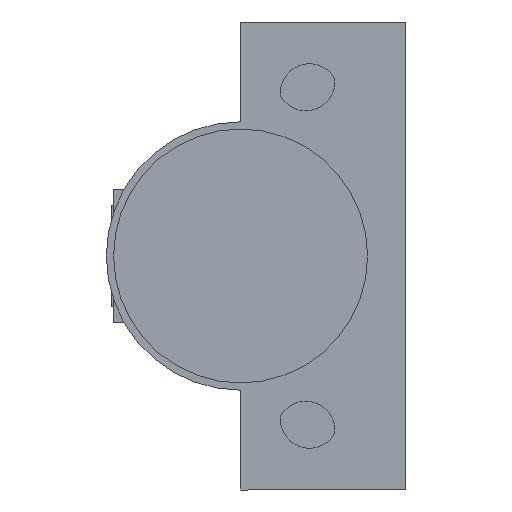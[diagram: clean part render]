
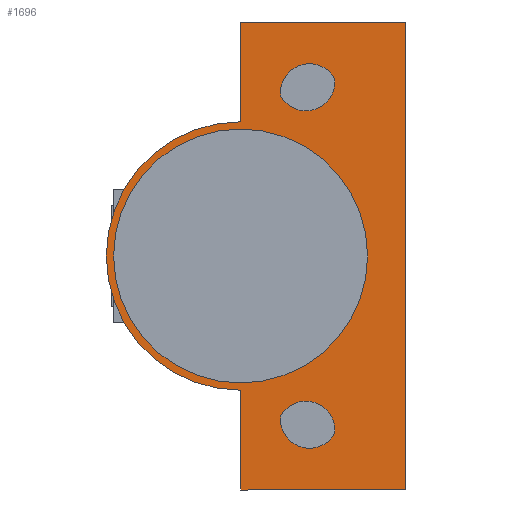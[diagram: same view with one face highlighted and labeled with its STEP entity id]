
A CAD part, front view. The second image highlights one B-rep face of the part: STEP entity #1696.
In plain terms, the highlighted planar face has unit normal (0, -1, 0).
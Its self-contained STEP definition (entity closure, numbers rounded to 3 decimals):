
#2 = DIRECTION ( 'NONE',  ( 0., -1., 0. ) ) ;
#4 = CIRCLE ( 'NONE', #1314, 18.5 ) ;
#8 = DIRECTION ( 'NONE',  ( -1., 0., 0. ) ) ;
#16 = CARTESIAN_POINT ( 'NONE',  ( 21.5, -38.5, 0. ) ) ;
#28 = VERTEX_POINT ( 'NONE', #1088 ) ;
#50 = ORIENTED_EDGE ( 'NONE', *, *, #1036, .F. ) ;
#55 = VERTEX_POINT ( 'NONE', #1051 ) ;
#62 = ORIENTED_EDGE ( 'NONE', *, *, #1656, .F. ) ;
#68 = ORIENTED_EDGE ( 'NONE', *, *, #1210, .F. ) ;
#78 = VECTOR ( 'NONE', #1612, 1000. ) ;
#80 = ORIENTED_EDGE ( 'NONE', *, *, #1280, .T. ) ;
#112 = ORIENTED_EDGE ( 'NONE', *, *, #1389, .F. ) ;
#114 = ORIENTED_EDGE ( 'NONE', *, *, #1542, .F. ) ;
#117 = ORIENTED_EDGE ( 'NONE', *, *, #1709, .T. ) ;
#123 = VECTOR ( 'NONE', #1179, 1000. ) ;
#127 = DIRECTION ( 'NONE',  ( -1., 0., 0. ) ) ;
#147 = EDGE_CURVE ( 'NONE', #181, #392, #1086, .T. ) ;
#157 = CARTESIAN_POINT ( 'NONE',  ( 4., -38.5, 0. ) ) ;
#166 = DIRECTION ( 'NONE',  ( 0., 1., 0. ) ) ;
#170 = CARTESIAN_POINT ( 'NONE',  ( 27., -38.5, -22.5 ) ) ;
#181 = VERTEX_POINT ( 'NONE', #922 ) ;
#194 = DIRECTION ( 'NONE',  ( -1., 0., 0. ) ) ;
#195 = CIRCLE ( 'NONE', #547, 4. ) ;
#199 = LINE ( 'NONE', #1682, #123 ) ;
#203 = CIRCLE ( 'NONE', #1530, 4. ) ;
#204 = DIRECTION ( 'NONE',  ( 0., 1., 0. ) ) ;
#207 = CARTESIAN_POINT ( 'NONE',  ( 30.5, -38.5, -24. ) ) ;
#214 = ORIENTED_EDGE ( 'NONE', *, *, #147, .T. ) ;
#215 = DIRECTION ( 'NONE',  ( 0., -1., 0. ) ) ;
#224 = DIRECTION ( 'NONE',  ( 0., 1., 0. ) ) ;
#228 = ORIENTED_EDGE ( 'NONE', *, *, #250, .T. ) ;
#250 = EDGE_CURVE ( 'NONE', #28, #181, #482, .T. ) ;
#256 = DIRECTION ( 'NONE',  ( -1., 0., 0. ) ) ;
#265 = FACE_OUTER_BOUND ( 'NONE', #291, .T. ) ;
#286 = CARTESIAN_POINT ( 'NONE',  ( 31., -38.5, -22.5 ) ) ;
#291 = EDGE_LOOP ( 'NONE', ( #112, #80, #68, #50, #394, #387 ) ) ;
#293 = ORIENTED_EDGE ( 'NONE', *, *, #456, .T. ) ;
#329 = VERTEX_POINT ( 'NONE', #612 ) ;
#349 = ORIENTED_EDGE ( 'NONE', *, *, #576, .T. ) ;
#362 = VERTEX_POINT ( 'NONE', #574 ) ;
#366 = VERTEX_POINT ( 'NONE', #550 ) ;
#368 = ORIENTED_EDGE ( 'NONE', *, *, #1000, .T. ) ;
#372 = CARTESIAN_POINT ( 'NONE',  ( 21.5, -38.5, 0. ) ) ;
#387 = ORIENTED_EDGE ( 'NONE', *, *, #823, .F. ) ;
#392 = VERTEX_POINT ( 'NONE', #459 ) ;
#394 = ORIENTED_EDGE ( 'NONE', *, *, #933, .F. ) ;
#407 = LINE ( 'NONE', #1512, #1252 ) ;
#419 = AXIS2_PLACEMENT_3D ( 'NONE', #1495, #828, #1566 ) ;
#420 = DIRECTION ( 'NONE',  ( -1., 0., 0. ) ) ;
#456 = EDGE_CURVE ( 'NONE', #849, #1102, #203, .T. ) ;
#459 = CARTESIAN_POINT ( 'NONE',  ( 34.47, -38.5, 24.49 ) ) ;
#473 = FACE_BOUND ( 'NONE', #1487, .T. ) ;
#474 = VERTEX_POINT ( 'NONE', #170 ) ;
#482 = CIRCLE ( 'NONE', #787, 4. ) ;
#531 = LINE ( 'NONE', #737, #1043 ) ;
#547 = AXIS2_PLACEMENT_3D ( 'NONE', #995, #1640, #1141 ) ;
#550 = CARTESIAN_POINT ( 'NONE',  ( 21.5, -38.5, 32.25 ) ) ;
#574 = CARTESIAN_POINT ( 'NONE',  ( 21.5, -38.5, -18.5 ) ) ;
#576 = EDGE_CURVE ( 'NONE', #474, #849, #1704, .T. ) ;
#585 = VERTEX_POINT ( 'NONE', #1658 ) ;
#612 = CARTESIAN_POINT ( 'NONE',  ( 21.5, -38.5, 18.5 ) ) ;
#702 = DIRECTION ( 'NONE',  ( -1., 0., 0. ) ) ;
#706 = DIRECTION ( 'NONE',  ( 0., 1., 0. ) ) ;
#710 = CARTESIAN_POINT ( 'NONE',  ( 31., -38.5, 22.5 ) ) ;
#730 = DIRECTION ( 'NONE',  ( 0., 0., 1. ) ) ;
#737 = CARTESIAN_POINT ( 'NONE',  ( 21.5, -38.5, -31. ) ) ;
#780 = FACE_BOUND ( 'NONE', #1200, .T. ) ;
#787 = AXIS2_PLACEMENT_3D ( 'NONE', #710, #706, #702 ) ;
#823 = EDGE_CURVE ( 'NONE', #362, #329, #4, .T. ) ;
#828 = DIRECTION ( 'NONE',  ( 0., 1., 0. ) ) ;
#834 = CARTESIAN_POINT ( 'NONE',  ( 34.47, -38.5, -24.49 ) ) ;
#849 = VERTEX_POINT ( 'NONE', #1488 ) ;
#868 = VERTEX_POINT ( 'NONE', #157 ) ;
#922 = CARTESIAN_POINT ( 'NONE',  ( 27., -38.5, 22.5 ) ) ;
#933 = EDGE_CURVE ( 'NONE', #329, #366, #407, .T. ) ;
#968 = DIRECTION ( 'NONE',  ( -1., 0., 0. ) ) ;
#970 = DIRECTION ( 'NONE',  ( 0., 1., 0. ) ) ;
#977 = CARTESIAN_POINT ( 'NONE',  ( 31., -38.5, 22.5 ) ) ;
#995 = CARTESIAN_POINT ( 'NONE',  ( 30.5, -38.5, 24. ) ) ;
#1000 = EDGE_CURVE ( 'NONE', #1102, #474, #1398, .T. ) ;
#1014 = VERTEX_POINT ( 'NONE', #1593 ) ;
#1036 = EDGE_CURVE ( 'NONE', #366, #55, #199, .T. ) ;
#1043 = VECTOR ( 'NONE', #730, 1000. ) ;
#1051 = CARTESIAN_POINT ( 'NONE',  ( 44.25, -38.5, 32.25 ) ) ;
#1078 = LINE ( 'NONE', #1644, #78 ) ;
#1086 = CIRCLE ( 'NONE', #1594, 4. ) ;
#1088 = CARTESIAN_POINT ( 'NONE',  ( 27.03, -38.5, 22.01 ) ) ;
#1102 = VERTEX_POINT ( 'NONE', #834 ) ;
#1141 = DIRECTION ( 'NONE',  ( -1., 0., 0. ) ) ;
#1179 = DIRECTION ( 'NONE',  ( 1., 0., 0. ) ) ;
#1183 = AXIS2_PLACEMENT_3D ( 'NONE', #1377, #1392, #420 ) ;
#1200 = EDGE_LOOP ( 'NONE', ( #368, #349, #293 ) ) ;
#1202 = DIRECTION ( 'NONE',  ( 0., 0., 1. ) ) ;
#1210 = EDGE_CURVE ( 'NONE', #55, #1014, #1078, .T. ) ;
#1232 = CARTESIAN_POINT ( 'NONE',  ( 21.5, -38.5, 0. ) ) ;
#1246 = DIRECTION ( 'NONE',  ( 1., 0., 0. ) ) ;
#1252 = VECTOR ( 'NONE', #1202, 1000. ) ;
#1280 = EDGE_CURVE ( 'NONE', #585, #1014, #1486, .T. ) ;
#1282 = CIRCLE ( 'NONE', #1289, 17.5 ) ;
#1289 = AXIS2_PLACEMENT_3D ( 'NONE', #1232, #215, #1328 ) ;
#1313 = CARTESIAN_POINT ( 'NONE',  ( 39., -38.5, 0. ) ) ;
#1314 = AXIS2_PLACEMENT_3D ( 'NONE', #372, #166, #127 ) ;
#1328 = DIRECTION ( 'NONE',  ( -1., 0., 0. ) ) ;
#1333 = PLANE ( 'NONE',  #419 ) ;
#1367 = CARTESIAN_POINT ( 'NONE',  ( 44.25, -38.5, -32.25 ) ) ;
#1377 = CARTESIAN_POINT ( 'NONE',  ( 31., -38.5, -22.5 ) ) ;
#1389 = EDGE_CURVE ( 'NONE', #585, #362, #531, .T. ) ;
#1392 = DIRECTION ( 'NONE',  ( 0., 1., 0. ) ) ;
#1398 = CIRCLE ( 'NONE', #1183, 4. ) ;
#1464 = EDGE_LOOP ( 'NONE', ( #62, #114 ) ) ;
#1467 = AXIS2_PLACEMENT_3D ( 'NONE', #16, #2, #8 ) ;
#1486 = LINE ( 'NONE', #1367, #1654 ) ;
#1487 = EDGE_LOOP ( 'NONE', ( #228, #214, #117 ) ) ;
#1488 = CARTESIAN_POINT ( 'NONE',  ( 27.03, -38.5, -22.01 ) ) ;
#1495 = CARTESIAN_POINT ( 'NONE',  ( 21.5, -38.5, 0. ) ) ;
#1512 = CARTESIAN_POINT ( 'NONE',  ( 21.5, -38.5, 18.5 ) ) ;
#1530 = AXIS2_PLACEMENT_3D ( 'NONE', #207, #204, #194 ) ;
#1542 = EDGE_CURVE ( 'NONE', #1623, #868, #1652, .T. ) ;
#1566 = DIRECTION ( 'NONE',  ( -1., 0., 0. ) ) ;
#1593 = CARTESIAN_POINT ( 'NONE',  ( 44.25, -38.5, -32.25 ) ) ;
#1594 = AXIS2_PLACEMENT_3D ( 'NONE', #977, #970, #968 ) ;
#1595 = FACE_BOUND ( 'NONE', #1464, .T. ) ;
#1612 = DIRECTION ( 'NONE',  ( 0., 0., -1. ) ) ;
#1623 = VERTEX_POINT ( 'NONE', #1313 ) ;
#1640 = DIRECTION ( 'NONE',  ( 0., 1., 0. ) ) ;
#1644 = CARTESIAN_POINT ( 'NONE',  ( 44.25, -38.5, 32.25 ) ) ;
#1652 = CIRCLE ( 'NONE', #1467, 17.5 ) ;
#1654 = VECTOR ( 'NONE', #1246, 1000. ) ;
#1656 = EDGE_CURVE ( 'NONE', #868, #1623, #1282, .T. ) ;
#1658 = CARTESIAN_POINT ( 'NONE',  ( 21.5, -38.5, -32.25 ) ) ;
#1672 = AXIS2_PLACEMENT_3D ( 'NONE', #286, #224, #256 ) ;
#1682 = CARTESIAN_POINT ( 'NONE',  ( 44.25, -38.5, 32.25 ) ) ;
#1696 = ADVANCED_FACE ( 'NONE', ( #265, #780, #473, #1595 ), #1333, .F. ) ;
#1704 = CIRCLE ( 'NONE', #1672, 4. ) ;
#1709 = EDGE_CURVE ( 'NONE', #392, #28, #195, .T. ) ;
